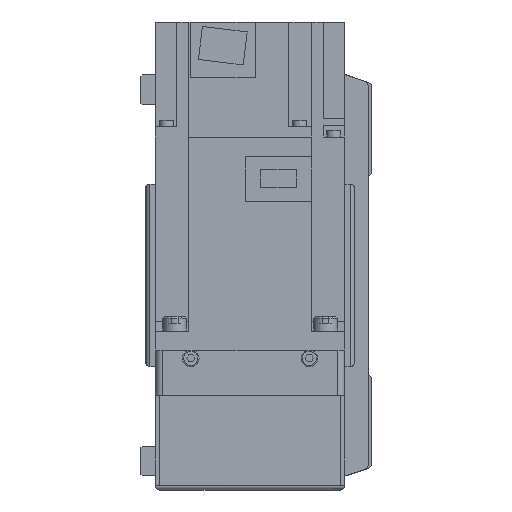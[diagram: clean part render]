
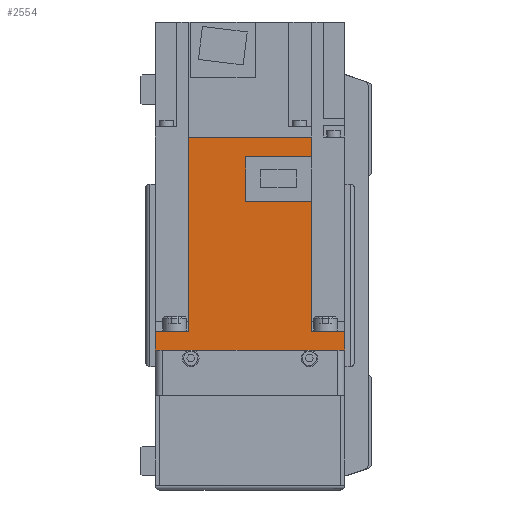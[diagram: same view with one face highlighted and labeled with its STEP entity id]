
A CAD part, left-side view. The second image highlights one B-rep face of the part: STEP entity #2554.
In plain terms, the highlighted planar face has unit normal (-1, 0, 0) as drawn and (1, 0, 0) by its records, which use the part's own axes.
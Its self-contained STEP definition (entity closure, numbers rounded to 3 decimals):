
#2554 = ADVANCED_FACE( '', ( #5465 ), #5466, .F. );
#5465 = FACE_OUTER_BOUND( '', #8649, .T. );
#5466 = PLANE( '', #8650 );
#8649 = EDGE_LOOP( '', ( #15841, #15842, #15843, #15844, #15845, #15846, #15847, #15848, #15849, #15850, #15851, #15852 ) );
#8650 = AXIS2_PLACEMENT_3D( '', #15853, #15854, #15855 );
#15841 = ORIENTED_EDGE( '', *, *, #21205, .F. );
#15842 = ORIENTED_EDGE( '', *, *, #18983, .F. );
#15843 = ORIENTED_EDGE( '', *, *, #19571, .F. );
#15844 = ORIENTED_EDGE( '', *, *, #21036, .T. );
#15845 = ORIENTED_EDGE( '', *, *, #18563, .F. );
#15846 = ORIENTED_EDGE( '', *, *, #19656, .T. );
#15847 = ORIENTED_EDGE( '', *, *, #20814, .T. );
#15848 = ORIENTED_EDGE( '', *, *, #21206, .F. );
#15849 = ORIENTED_EDGE( '', *, *, #18511, .F. );
#15850 = ORIENTED_EDGE( '', *, *, #18985, .F. );
#15851 = ORIENTED_EDGE( '', *, *, #20605, .F. );
#15852 = ORIENTED_EDGE( '', *, *, #19338, .F. );
#15853 = CARTESIAN_POINT( '', ( 40., 89.8, 40. ) );
#15854 = DIRECTION( '', ( -1., 0., 0. ) );
#15855 = DIRECTION( '', ( 0., 0., 1. ) );
#18511 = EDGE_CURVE( '', #22129, #22130, #22131, .T. );
#18563 = EDGE_CURVE( '', #22218, #22220, #22221, .T. );
#18983 = EDGE_CURVE( '', #22962, #22964, #22965, .T. );
#18985 = EDGE_CURVE( '', #22966, #22129, #22968, .T. );
#19338 = EDGE_CURVE( '', #23546, #23547, #23548, .T. );
#19571 = EDGE_CURVE( '', #23927, #22962, #23929, .T. );
#19656 = EDGE_CURVE( '', #22218, #24064, #24066, .T. );
#20605 = EDGE_CURVE( '', #23547, #22966, #25450, .T. );
#20814 = EDGE_CURVE( '', #24064, #25732, #25734, .T. );
#21036 = EDGE_CURVE( '', #23927, #22220, #26022, .T. );
#21205 = EDGE_CURVE( '', #22964, #23546, #26225, .T. );
#21206 = EDGE_CURVE( '', #22130, #25732, #26226, .T. );
#22129 = VERTEX_POINT( '', #27512 );
#22130 = VERTEX_POINT( '', #27513 );
#22131 = LINE( '', #27514, #27515 );
#22218 = VERTEX_POINT( '', #27641 );
#22220 = VERTEX_POINT( '', #27644 );
#22221 = LINE( '', #27645, #27646 );
#22962 = VERTEX_POINT( '', #28668 );
#22964 = VERTEX_POINT( '', #28671 );
#22965 = LINE( '', #28672, #28673 );
#22966 = VERTEX_POINT( '', #28674 );
#22968 = LINE( '', #28677, #28678 );
#23546 = VERTEX_POINT( '', #29618 );
#23547 = VERTEX_POINT( '', #29619 );
#23548 = LINE( '', #29620, #29621 );
#23927 = VERTEX_POINT( '', #30127 );
#23929 = LINE( '', #30130, #30131 );
#24064 = VERTEX_POINT( '', #30317 );
#24066 = LINE( '', #30320, #30321 );
#25450 = LINE( '', #32305, #32306 );
#25732 = VERTEX_POINT( '', #32684 );
#25734 = LINE( '', #32687, #32688 );
#26022 = LINE( '', #33108, #33109 );
#26225 = LINE( '', #33392, #33393 );
#26226 = LINE( '', #33394, #33395 );
#27512 = CARTESIAN_POINT( '', ( 40., 8., -25.95 ) );
#27513 = CARTESIAN_POINT( '', ( 40., 8., -40. ) );
#27514 = CARTESIAN_POINT( '', ( 40., 8., 40. ) );
#27515 = VECTOR( '', #34376, 1000. );
#27641 = CARTESIAN_POINT( '', ( 40., 8., 40. ) );
#27644 = CARTESIAN_POINT( '', ( 40., 8., 25.95 ) );
#27645 = CARTESIAN_POINT( '', ( 40., 8., 40. ) );
#27646 = VECTOR( '', #34431, 1000. );
#28668 = CARTESIAN_POINT( '', ( 40., 89.8, -25.95 ) );
#28671 = CARTESIAN_POINT( '', ( 40., 81.4, -25.95 ) );
#28672 = CARTESIAN_POINT( '', ( 40., 158., -25.95 ) );
#28673 = VECTOR( '', #35047, 1000. );
#28674 = CARTESIAN_POINT( '', ( 40., 62.8, -25.95 ) );
#28677 = CARTESIAN_POINT( '', ( 40., 158., -25.95 ) );
#28678 = VECTOR( '', #35049, 1000. );
#29618 = CARTESIAN_POINT( '', ( 40., 81.4, 1.8 ) );
#29619 = CARTESIAN_POINT( '', ( 40., 62.8, 1.8 ) );
#29620 = CARTESIAN_POINT( '', ( 40., 81.4, 1.8 ) );
#29621 = VECTOR( '', #35451, 1000. );
#30127 = CARTESIAN_POINT( '', ( 40., 89.8, 25.95 ) );
#30130 = CARTESIAN_POINT( '', ( 40., 89.8, 40. ) );
#30131 = VECTOR( '', #35748, 1000. );
#30317 = CARTESIAN_POINT( '', ( 40., 0., 40. ) );
#30320 = CARTESIAN_POINT( '', ( 40., 89.8, 40. ) );
#30321 = VECTOR( '', #35880, 1000. );
#32305 = CARTESIAN_POINT( '', ( 40., 62.8, 1.8 ) );
#32306 = VECTOR( '', #36995, 1000. );
#32684 = CARTESIAN_POINT( '', ( 40., 0., -40. ) );
#32687 = CARTESIAN_POINT( '', ( 40., 0., 40. ) );
#32688 = VECTOR( '', #37240, 1000. );
#33108 = CARTESIAN_POINT( '', ( 40., 158., 25.95 ) );
#33109 = VECTOR( '', #37475, 1000. );
#33392 = CARTESIAN_POINT( '', ( 40., 81.4, -26. ) );
#33393 = VECTOR( '', #37620, 1000. );
#33394 = CARTESIAN_POINT( '', ( 40., 89.8, -40. ) );
#33395 = VECTOR( '', #37621, 1000. );
#34376 = DIRECTION( '', ( 0., 0., -1. ) );
#34431 = DIRECTION( '', ( 0., 0., -1. ) );
#35047 = DIRECTION( '', ( 0., -1., 0. ) );
#35049 = DIRECTION( '', ( 0., -1., 0. ) );
#35451 = DIRECTION( '', ( 0., -1., 0. ) );
#35748 = DIRECTION( '', ( 0., 0., -1. ) );
#35880 = DIRECTION( '', ( 0., -1., 0. ) );
#36995 = DIRECTION( '', ( 0., 0., -1. ) );
#37240 = DIRECTION( '', ( 0., 0., -1. ) );
#37475 = DIRECTION( '', ( 0., -1., 0. ) );
#37620 = DIRECTION( '', ( 0., 0., 1. ) );
#37621 = DIRECTION( '', ( 0., -1., 0. ) );
